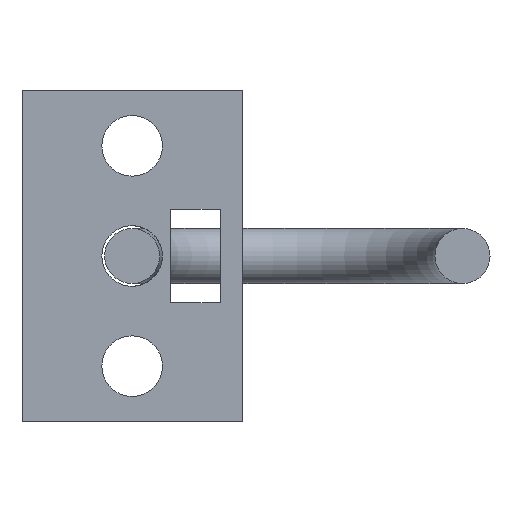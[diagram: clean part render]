
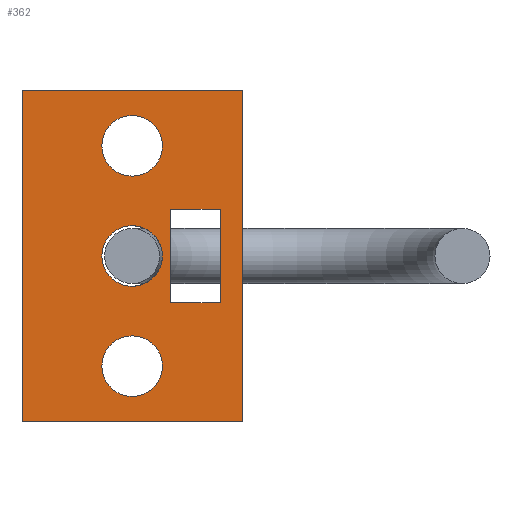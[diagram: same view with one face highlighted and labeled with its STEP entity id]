
A CAD part, front view. The second image highlights one B-rep face of the part: STEP entity #362.
In plain terms, the highlighted planar face has unit normal (0, -1, 0).
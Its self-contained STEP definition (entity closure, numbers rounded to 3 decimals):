
#35=FACE_BOUND('',#95,.T.);
#36=FACE_BOUND('',#96,.T.);
#37=FACE_BOUND('',#97,.T.);
#38=FACE_BOUND('',#98,.T.);
#43=CIRCLE('',#396,2.75);
#45=CIRCLE('',#399,2.75);
#47=CIRCLE('',#402,2.75);
#67=FACE_OUTER_BOUND('',#94,.T.);
#94=EDGE_LOOP('',(#313,#314,#315,#316));
#95=EDGE_LOOP('',(#317,#318,#319,#320));
#96=EDGE_LOOP('',(#321));
#97=EDGE_LOOP('',(#322));
#98=EDGE_LOOP('',(#323));
#105=LINE('',#530,#135);
#109=LINE('',#539,#139);
#112=LINE('',#545,#142);
#114=LINE('',#550,#144);
#125=LINE('',#594,#155);
#127=LINE('',#598,#157);
#129=LINE('',#602,#159);
#131=LINE('',#605,#161);
#135=VECTOR('',#424,10.);
#139=VECTOR('',#432,10.);
#142=VECTOR('',#437,10.);
#144=VECTOR('',#443,10.);
#155=VECTOR('',#488,10.);
#157=VECTOR('',#492,10.);
#159=VECTOR('',#496,10.);
#161=VECTOR('',#500,10.);
#165=VERTEX_POINT('',#527);
#166=VERTEX_POINT('',#529);
#169=VERTEX_POINT('',#537);
#171=VERTEX_POINT('',#543);
#178=VERTEX_POINT('',#566);
#180=VERTEX_POINT('',#572);
#182=VERTEX_POINT('',#578);
#187=VERTEX_POINT('',#591);
#188=VERTEX_POINT('',#593);
#189=VERTEX_POINT('',#597);
#190=VERTEX_POINT('',#601);
#197=EDGE_CURVE('',#166,#165,#105,.T.);
#202=EDGE_CURVE('',#165,#169,#109,.T.);
#205=EDGE_CURVE('',#169,#171,#112,.T.);
#208=EDGE_CURVE('',#171,#166,#114,.T.);
#217=EDGE_CURVE('',#178,#178,#43,.T.);
#220=EDGE_CURVE('',#180,#180,#45,.T.);
#223=EDGE_CURVE('',#182,#182,#47,.T.);
#229=EDGE_CURVE('',#188,#187,#125,.T.);
#231=EDGE_CURVE('',#189,#188,#127,.T.);
#233=EDGE_CURVE('',#190,#189,#129,.T.);
#235=EDGE_CURVE('',#187,#190,#131,.T.);
#313=ORIENTED_EDGE('',*,*,#235,.T.);
#314=ORIENTED_EDGE('',*,*,#233,.T.);
#315=ORIENTED_EDGE('',*,*,#231,.T.);
#316=ORIENTED_EDGE('',*,*,#229,.T.);
#317=ORIENTED_EDGE('',*,*,#197,.T.);
#318=ORIENTED_EDGE('',*,*,#202,.T.);
#319=ORIENTED_EDGE('',*,*,#205,.T.);
#320=ORIENTED_EDGE('',*,*,#208,.T.);
#321=ORIENTED_EDGE('',*,*,#217,.T.);
#322=ORIENTED_EDGE('',*,*,#220,.T.);
#323=ORIENTED_EDGE('',*,*,#223,.T.);
#345=PLANE('',#408);
#362=ADVANCED_FACE('',(#67,#35,#36,#37,#38),#345,.T.);
#396=AXIS2_PLACEMENT_3D('',#568,#463,#464);
#399=AXIS2_PLACEMENT_3D('',#574,#470,#471);
#402=AXIS2_PLACEMENT_3D('',#580,#477,#478);
#408=AXIS2_PLACEMENT_3D('',#606,#501,#502);
#424=DIRECTION('',(0.,0.,1.));
#432=DIRECTION('',(1.,0.,0.));
#437=DIRECTION('',(0.,0.,-1.));
#443=DIRECTION('',(-1.,0.,0.));
#463=DIRECTION('center_axis',(0.,1.,0.));
#464=DIRECTION('ref_axis',(1.,0.,0.));
#470=DIRECTION('center_axis',(0.,1.,0.));
#471=DIRECTION('ref_axis',(0.,0.,1.));
#477=DIRECTION('center_axis',(0.,1.,0.));
#478=DIRECTION('ref_axis',(0.,0.,1.));
#488=DIRECTION('',(-1.,0.,0.));
#492=DIRECTION('',(0.,0.,1.));
#496=DIRECTION('',(1.,0.,0.));
#500=DIRECTION('',(0.,0.,-1.));
#501=DIRECTION('center_axis',(0.,-1.,0.));
#502=DIRECTION('ref_axis',(0.,0.,-1.));
#527=CARTESIAN_POINT('',(3.5,-9.,4.25));
#529=CARTESIAN_POINT('',(3.5,-9.,-4.25));
#530=CARTESIAN_POINT('',(3.5,-9.,2.125));
#537=CARTESIAN_POINT('',(8.,-9.,4.25));
#539=CARTESIAN_POINT('',(4.,-9.,4.25));
#543=CARTESIAN_POINT('',(8.,-9.,-4.25));
#545=CARTESIAN_POINT('',(8.,-9.,-2.125));
#550=CARTESIAN_POINT('',(1.75,-9.,-4.25));
#566=CARTESIAN_POINT('',(-2.75,-9.,0.));
#568=CARTESIAN_POINT('Origin',(0.,-9.,0.));
#572=CARTESIAN_POINT('',(0.,-9.,7.25));
#574=CARTESIAN_POINT('Origin',(0.,-9.,10.));
#578=CARTESIAN_POINT('',(0.,-9.,-12.75));
#580=CARTESIAN_POINT('Origin',(0.,-9.,-10.));
#591=CARTESIAN_POINT('',(-10.,-9.,15.));
#593=CARTESIAN_POINT('',(10.,-9.,15.));
#594=CARTESIAN_POINT('',(-10.,-9.,15.));
#597=CARTESIAN_POINT('',(10.,-9.,-15.));
#598=CARTESIAN_POINT('',(10.,-9.,15.));
#601=CARTESIAN_POINT('',(-10.,-9.,-15.));
#602=CARTESIAN_POINT('',(10.,-9.,-15.));
#605=CARTESIAN_POINT('',(-10.,-9.,-15.));
#606=CARTESIAN_POINT('Origin',(0.,-9.,0.));
